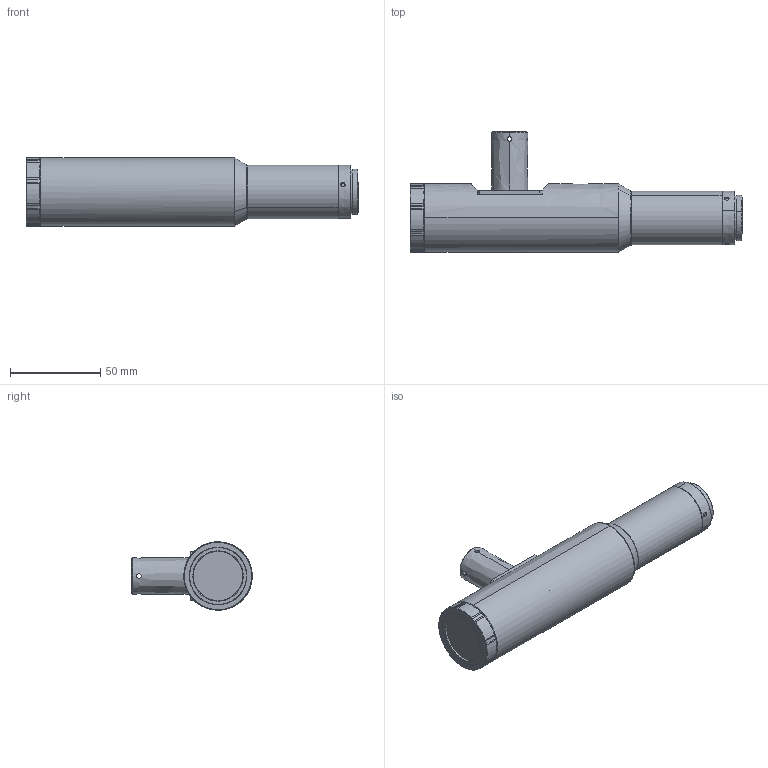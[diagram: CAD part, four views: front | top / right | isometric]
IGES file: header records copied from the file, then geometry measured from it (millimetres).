
Start section: SolidWorks IGES file using analytic representation for surfaces
Global section: file name: E:\图纸\镜头\DTCA\DTCA121\DTCA121-5C （4倍）\A5.0\3D\DTCA121-5C.IGS; native system: SolidWorks 2017; preprocessor: SolidWorks 2017; author: gc; date: 240116.090618; units: millimetre
Bounding box: 184.4 x 66.9 x 38 mm (x, y, z)
Surface area: 30112.6 mm2 (no closed solid volume)
Topology: 0 solids, 0 shells, 260 faces, 4042 edges, 4042 vertices
Faces by surface type: revolution 189, bspline 71
